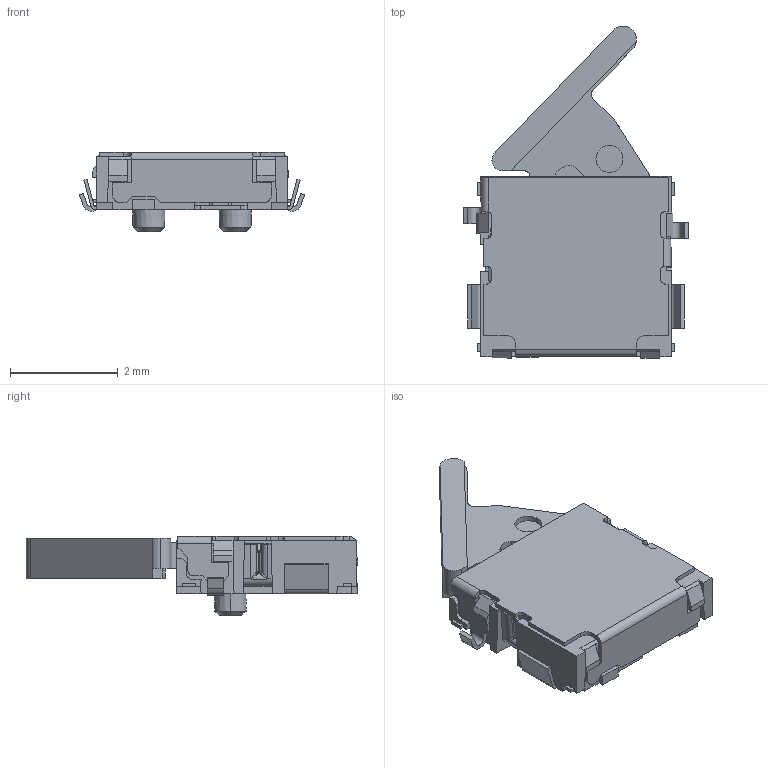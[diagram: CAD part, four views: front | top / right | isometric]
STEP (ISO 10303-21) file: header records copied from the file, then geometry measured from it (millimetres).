
FILE_DESCRIPTION (( 'STEP AP214' ), '1' );
FILE_NAME ('SPVS360100.STEP', '2012-08-05T22:40:04', ( '' ), ( '' ), 'SwSTEP 2.0', 'SolidWorks 2010', '' );
FILE_SCHEMA (( 'AUTOMOTIVE_DESIGN' ));
Length unit declared in the file: millimetre
Products named in the file (1): SPVS360100
Bounding box: 4.18 x 6.15 x 1.47 mm (x, y, z)
Volume: 13.9 mm3; surface area: 67.1 mm2
Topology: 1 solids, 3 shells, 412 faces, 1118 edges, 714 vertices
Faces by surface type: plane 292, cylinder 85, bspline 17, cone 15, sphere 2, torus 1
Entity records: 14916 total; most frequent: CARTESIAN_POINT 2879, ORIENTED_EDGE 2236, DIRECTION 2043, EDGE_CURVE 1118, LINE 861, VECTOR 861, VERTEX_POINT 714, AXIS2_PLACEMENT_3D 591
